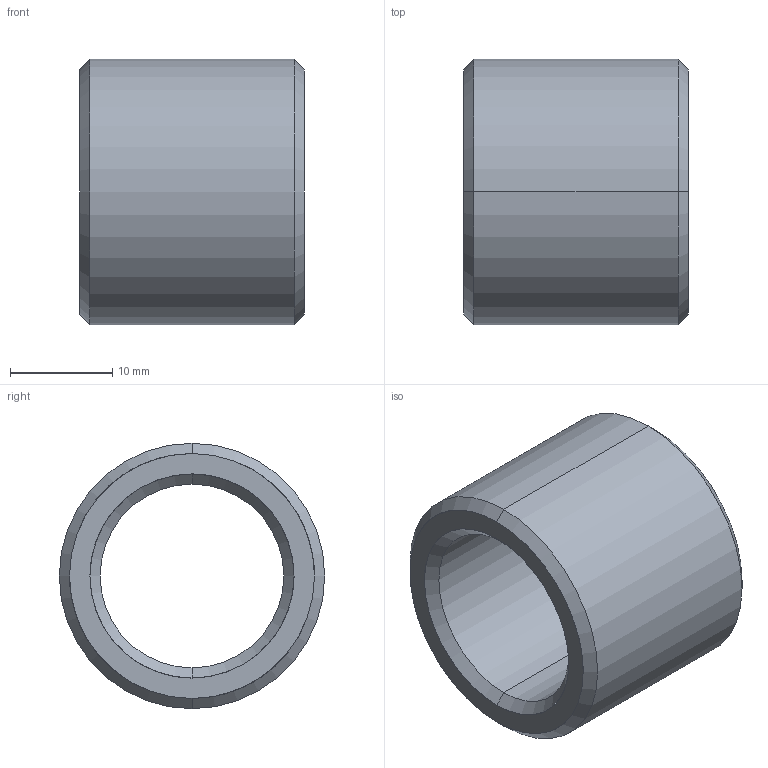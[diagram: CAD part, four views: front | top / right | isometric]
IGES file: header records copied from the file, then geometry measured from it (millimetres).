
Start section: START RECORD GO HERE.
Global section: file name: 352-18X22.igs; native system: DASSAULT SYSTEMES CATIA V5 R20 - www.3ds.com; preprocessor: CATIA Version 5 Release 20 ; author: Utente; organization: NB04-ASUS; date: 20210412.174241; units: millimetre
Bounding box: 22 x 26 x 26 mm (x, y, z)
Surface area: 3440 mm2 (no closed solid volume)
Topology: 0 solids, 0 shells, 14 faces, 88 edges, 88 vertices
Faces by surface type: revolution 12, plane 2
